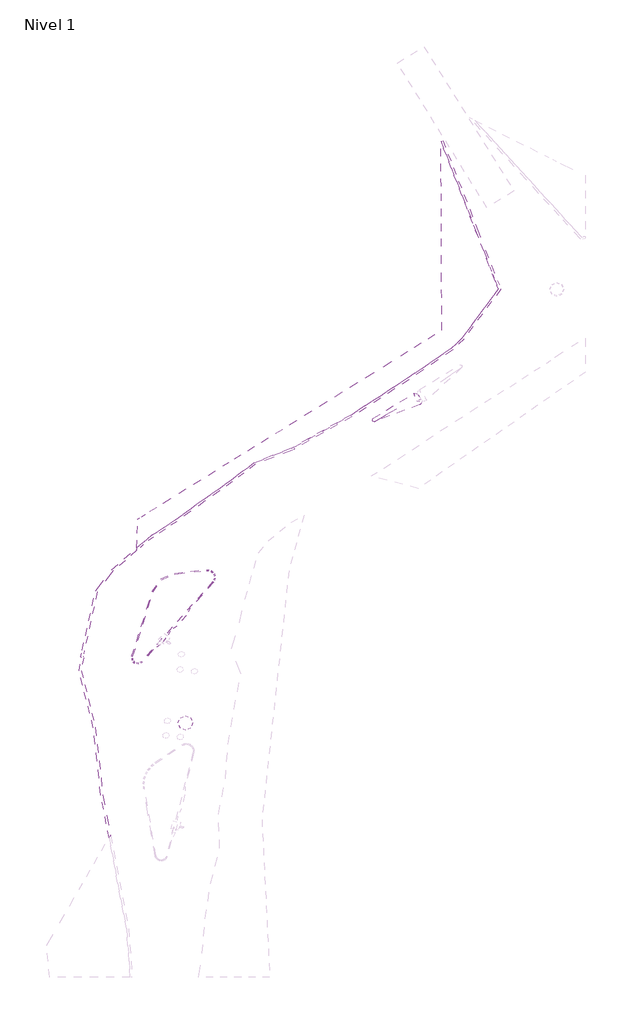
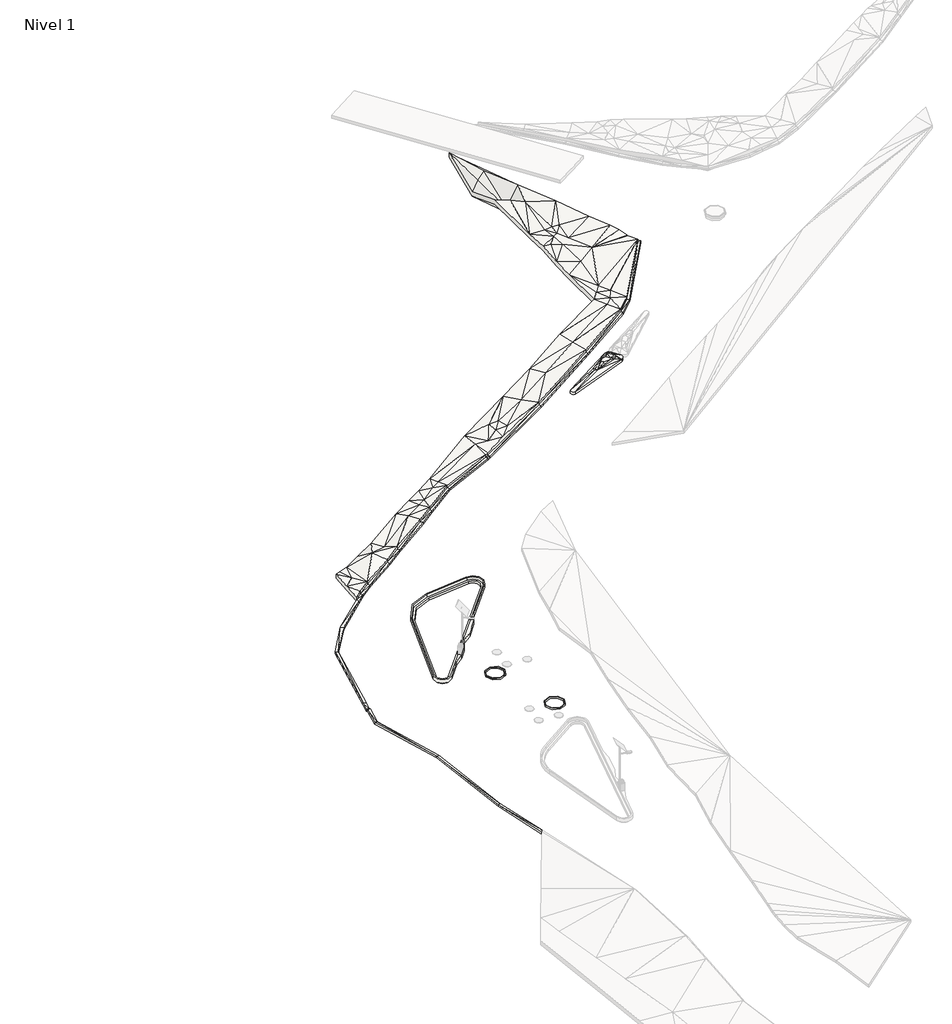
# One storey, part 37 of 45: 7 slabs.
"""IFC4 building model written with IfcOpenShell, lengths in millimetres."""

from ifc_helpers import new_model, si_unit, point, frame, frame_2d, origin, place, context, project, spatial, polyline, circle_curve, trimmed, segment, composite_curve, outline, extrude, faceted_brep, element, save
from ifc_brep_helpers import plane_surface, cylinder_surface, spline_surface, advanced_brep

model = new_model("IFC4")

# Units and contexts
model_context = context("Model", 3, world=origin())
ifc_project = project(units=[si_unit("LENGTHUNIT", "METRE", prefix="MILLI")], contexts=[model_context])

# Site, building, storey
site = spatial("IfcSite", under=ifc_project)
building = spatial("IfcBuilding", under=site)
storey = spatial("IfcBuildingStorey", under=building, Name="Nivel 1", Elevation=0.0)

# Slabs
placement = place(None, origin())
element("IfcSlab", 1, ObjectType="Lippia", at=placement, inside=storey, context=model_context, shape_type="AdvancedBrep", body=[
    advanced_brep(
    [(-180922.6574957, 914079.7671222, 6450.0), (-180922.6574957, 914079.7671222, 6750.0), (-180451.7015521, 913320.6565095, 6750.0), (-180451.7015521, 913320.6565095, 6450.0), (-180702.9387456, 912588.1798715, 6750.0), (-180702.9387456, 912588.1798715, 6450.0), (-187317.2940233, 910114.5313122, 6750.0), (-187317.2940233, 910114.5313122, 6450.0), (-187535.5852433, 910561.7988345, 6450.0), (-187535.5852433, 910561.7988345, 6750.0), (-181607.8032786, 914239.2945072, 6750.0), (-181607.8032786, 914239.2945072, 6450.0), (-181125.8948109, 913147.3846626, 7050.0), (-181230.1562892, 913636.9829941, 7050.0), (-181125.8948109, 913147.3846626, 6750.0), (-181230.1562892, 913636.9829941, 6750.0), (-182701.2194173, 912451.285877, 7250.0), (-182411.4930312, 912454.1583234, 7250.0), (-182121.7666451, 912457.0307699, 7250.0), (-181877.4144522, 912746.6831171, 7250.0), (-182194.2777469, 913065.1541282, 7250.0), (-182476.8327656, 913005.2811763, 7250.0), (-182710.1884735, 912955.8334789, 7250.0), (-182953.9622779, 912672.0178226, 7250.0), (-182701.2194173, 912451.285877, 6950.0), (-182953.9622779, 912672.0178226, 6950.0), (-182710.1884735, 912955.8334789, 6950.0), (-182476.8327656, 913005.2811763, 6950.0), (-182194.2777469, 913065.1541282, 6950.0), (-181877.4144522, 912746.6831171, 6950.0), (-182121.7666451, 912457.0307699, 6950.0), (-182411.4930312, 912454.1583234, 6950.0), (-181609.2774155, 913795.5701454, 7050.0), (-181378.1960698, 913815.5368548, 7050.0), (-181609.2774155, 913795.5701454, 6750.0), (-181378.1960698, 913815.5368548, 6750.0), (-181181.219523, 912788.1675525, 7050.0), (-181181.219523, 912788.1675525, 6750.0), (-181465.1873773, 912561.3195556, 7050.0), (-183820.4421612, 911815.8491873, 7050.0), (-183820.4421612, 911815.8491873, 6750.0), (-181465.1873773, 912561.3195556, 6750.0), (-184029.4570005, 912265.5192698, 7050.0), (-184029.4570005, 912265.5192698, 6750.0), (-184122.5831491, 911948.8087321, 7050.0), (-184122.5831491, 911948.8087321, 6750.0)],
    [
        (0, 1),
        (1, 2),
        (2, 3),
        (3, 0),
        (2, 4, circle_curve(frame((-180876.5787615, 913057.0606069, 6750.0), z_axis=(0.0, 0.0, -1.0), x_axis=(0.6003648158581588, -0.7997262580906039, 0.0)), 499.9999992)),
        (4, 5),
        (5, 3, circle_curve(frame((-180876.5787615, 913057.0606069, 6450.0), z_axis=(0.0, 0.0, 1.0), x_axis=(0.6003648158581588, -0.7997262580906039, 0.0)), 499.9999992)),
        (4, 6),
        (6, 7),
        (7, 5),
        (8, 9),
        (9, 10),
        (10, 11),
        (11, 8),
        (10, 1, circle_curve(frame((-181345.8160956, 913813.4274903, 6750.0), z_axis=(0.0, 0.0, -1.0), x_axis=(0.6003648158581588, -0.7997262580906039, 0.0)), 500.0000001)),
        (0, 11, circle_curve(frame((-181345.8160956, 913813.4274903, 6450.0), z_axis=(0.0, 0.0, 1.0), x_axis=(0.6003648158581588, -0.7997262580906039, 0.0)), 500.0000001)),
        (2, 12),
        (12, 4),
        (1, 13),
        (13, 2),
        (5, 14),
        (14, 3),
        (3, 15),
        (15, 0),
        (16, 17),
        (17, 18),
        (18, 19),
        (19, 20),
        (20, 21),
        (21, 22),
        (22, 23),
        (23, 16),
        (24, 25),
        (25, 26),
        (26, 27),
        (27, 28),
        (28, 29),
        (29, 30),
        (30, 31),
        (31, 24),
        (20, 32),
        (32, 22),
        (10, 32),
        (32, 33),
        (33, 10),
        (19, 32),
        (26, 34),
        (34, 28),
        (11, 35),
        (35, 34),
        (34, 11),
        (34, 29),
        (32, 12),
        (12, 13),
        (13, 33),
        (19, 12),
        (12, 36),
        (36, 4),
        (35, 15),
        (15, 14),
        (14, 34),
        (14, 29),
        (5, 37),
        (37, 14),
        (4, 38),
        (38, 39),
        (39, 4),
        (19, 38),
        (38, 36),
        (36, 19),
        (5, 40),
        (40, 41),
        (41, 5),
        (29, 37),
        (37, 41),
        (41, 29),
        (22, 42),
        (42, 23),
        (23, 39),
        (39, 16),
        (39, 18),
        (25, 43),
        (43, 26),
        (24, 40),
        (40, 25),
        (30, 40),
        (42, 39),
        (40, 43),
        (1, 33),
        (35, 0),
        (10, 42),
        (42, 32),
        (42, 44),
        (44, 39),
        (18, 38),
        (34, 43),
        (43, 11),
        (40, 45),
        (45, 43),
        (41, 30),
        (6, 9, circle_curve(frame((-187404.8673458, 910348.6959698, 6750.0), z_axis=(0.0, 0.0, -1.0), x_axis=(0.6003648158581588, -0.7997262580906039, 0.0)), 249.9999994)),
        (8, 7, circle_curve(frame((-187404.8673458, 910348.6959698, 6450.0), z_axis=(0.0, 0.0, 1.0), x_axis=(0.6003648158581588, -0.7997262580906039, 0.0)), 249.9999994)),
        (9, 42),
        (9, 44),
        (6, 44),
        (6, 39),
        (43, 8),
        (45, 8),
        (45, 7),
        (40, 7),
    ],
    [
        plane_surface(frame((-180922.6574957, 914079.7671222, 6450.0), z_axis=(0.8497485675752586, 0.5271881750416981, 0.0), x_axis=(0.0, 0.0, 1.0))),
        cylinder_surface(frame((-180876.5787615, 913057.0606069, 6750.0), z_axis=(0.0, 0.0, -1.0000000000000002), x_axis=(0.6003648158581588, -0.7997262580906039, 0.0)), 499.9999992),
        plane_surface(frame((-180702.9387456, 912588.1798715, 6450.0), z_axis=(0.3502871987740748, -0.9366423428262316, 0.0), x_axis=(0.0, 0.0, 1.0))),
        plane_surface(frame((-187535.5852433, 910561.7988345, 6450.0), z_axis=(-0.5271747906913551, 0.8497568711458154, 0.0), x_axis=(0.0, 0.0, 1.0))),
        cylinder_surface(frame((-181345.8160956, 913813.4274903, 6750.0), z_axis=(0.0, 0.0, -1.0000000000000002), x_axis=(0.6003648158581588, -0.7997262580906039, 0.0)), 500.0000001),
        spline_surface(2, 1, [[(-180702.9387456, 912588.1798715, 6750.0), (-181125.8948109, 913147.3846626, 7050.0)], [(-180480.56193111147, 912670.5323988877, 6750.0), (-181125.8948109, 913147.3846626, 7050.0)], [(-180403.62561064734, 912894.8406443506, 6750.0), (-181125.8948109, 913147.3846626, 7050.0)], [(-180326.68929020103, 913119.1488898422, 6750.0), (-181125.8948109, 913147.3846626, 7050.0)], [(-180451.7044784, 913320.654694, 6750.0), (-181125.8948109, 913147.3846626, 7050.0)]], [3, 2, 3], [2, 2], [0.0, 1.0, 2.0], [0.0, 1.0], weights=[[1.0, 1.0], [0.9035324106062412, 0.9035324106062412], [1.0, 1.0], [0.9035324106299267, 0.9035324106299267], [1.0, 1.0]]),
        plane_surface(frame((-180868.171779, 913679.1355419, 6850.0), z_axis=(0.44060370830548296, 0.27335269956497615, 0.8550711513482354), x_axis=(-0.527188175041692, 0.8497485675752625, 0.0))),
        spline_surface(1, 2, [[(-180702.9387456, 912588.1798715, 6450.0), (-180480.56193111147, 912670.5323988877, 6450.0), (-180403.62561064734, 912894.8406443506, 6450.0), (-180326.68929020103, 913119.1488898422, 6450.0), (-180451.7044784, 913320.654694, 6450.0)], [(-181125.8948109, 913147.3846626, 6750.0), (-181125.8948109, 913147.3846626, 6750.0), (-181125.8948109, 913147.3846626, 6750.0), (-181125.8948109, 913147.3846626, 6750.0), (-181125.8948109, 913147.3846626, 6750.0)]], [2, 2], [3, 2, 3], [0.0, 1.0], [0.0, 1.0, 2.0], weights=[[1.0, 0.9035324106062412, 1.0, 0.9035324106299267, 1.0], [1.0, 0.9035324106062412, 1.0, 0.9035324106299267, 1.0]]),
        plane_surface(frame((-180868.171779, 913679.1355419, 6550.0), z_axis=(-0.44060370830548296, -0.27335269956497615, -0.8550711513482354), x_axis=(-0.527188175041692, 0.8497485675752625, 0.0))),
        plane_surface(frame((-182426.4715022, 912724.6675323, 7250.0), z_axis=(0.0, 0.0, 1.0000000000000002), x_axis=(0.9999508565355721, 0.009913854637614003, 0.0))),
        plane_surface(frame((-182426.4715022, 912724.6675323, 6950.0), z_axis=(0.0, 0.0, -1.0000000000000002), x_axis=(0.9999508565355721, 0.009913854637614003, 0.0))),
        plane_surface(frame((-182171.2478786, 913272.1859175, 7183.3333333), z_axis=(-0.06621952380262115, 0.3125060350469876, 0.9476048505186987), x_axis=(0.9782783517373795, 0.2072956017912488, 0.0))),
        plane_surface(frame((-181531.7589213, 913950.1338358, 6950.0), z_axis=(-0.04834833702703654, 0.5595513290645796, 0.8273842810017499), x_axis=(-0.0027521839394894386, -0.8284244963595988, 0.560093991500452))),
        plane_surface(frame((-181893.6565382, 913202.4691302, 7183.3333333), z_axis=(0.1490616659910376, 0.14830916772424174, 0.9776425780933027), x_axis=(0.24355356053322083, 0.9527224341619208, -0.1816634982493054))),
        plane_surface(frame((-182171.2478786, 913272.1859175, 6883.3333333), z_axis=(0.06621952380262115, -0.3125060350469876, -0.9476048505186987), x_axis=(0.9782783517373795, 0.2072956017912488, 0.0))),
        plane_surface(frame((-181531.7589213, 913950.1338358, 6650.0), z_axis=(0.04834833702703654, -0.5595513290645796, -0.8273842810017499), x_axis=(-0.0027521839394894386, -0.8284244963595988, 0.560093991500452))),
        plane_surface(frame((-181893.6565382, 913202.4691302, 6883.3333333), z_axis=(-0.1490616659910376, -0.14830916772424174, -0.9776425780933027), x_axis=(0.24355356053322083, 0.9527224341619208, -0.1816634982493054))),
        plane_surface(frame((-181335.8811463, 913598.8686642, 7050.0), z_axis=(0.0, 0.0, 1.0), x_axis=(0.5978159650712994, -0.801633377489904, 0.0))),
        plane_surface(frame((-181537.5288928, 913229.8793084, 7116.6666667), z_axis=(0.18525958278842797, 0.13815684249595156, 0.9729293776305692), x_axis=(0.8590375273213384, 0.45802883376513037, -0.22861346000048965))),
        plane_surface(frame((-181003.3510265, 912841.2440289, 6950.0), z_axis=(0.5061540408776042, -0.0779551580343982, 0.8589127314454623), x_axis=(-0.5546032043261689, 0.7332600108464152, 0.3933764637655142))),
        plane_surface(frame((-180935.9175507, 913368.3413888, 6950.0), z_axis=(0.3873844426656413, 0.08249471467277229, 0.9182199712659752), x_axis=(-0.8724931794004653, 0.3545391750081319, 0.3362404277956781))),
        plane_surface(frame((-181335.8811463, 913598.8686642, 6750.0), z_axis=(0.0, 0.0, -1.0), x_axis=(0.5978159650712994, -0.801633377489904, 0.0))),
        plane_surface(frame((-181537.5288928, 913229.8793084, 6816.6666667), z_axis=(-0.18525958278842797, -0.13815684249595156, -0.9729293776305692), x_axis=(0.8590375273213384, 0.45802883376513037, -0.22861346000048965))),
        plane_surface(frame((-181003.3510265, 912841.2440289, 6650.0), z_axis=(-0.5061540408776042, 0.0779551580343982, -0.8589127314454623), x_axis=(-0.5546032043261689, 0.7332600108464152, 0.3933764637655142))),
        plane_surface(frame((-180935.9175507, 913368.3413888, 6650.0), z_axis=(-0.3873844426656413, -0.08249471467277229, -0.9182199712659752), x_axis=(-0.8724931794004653, 0.3545391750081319, 0.3362404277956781))),
        plane_surface(frame((-181996.189428, 912321.7828715, 6950.0), z_axis=(0.24937509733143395, -0.7878809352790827, 0.5630769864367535), x_axis=(-0.930024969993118, -0.032772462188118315, 0.366032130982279))),
        plane_surface(frame((-181507.9404508, 912698.7234084, 7116.6666667), z_axis=(0.2779501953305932, -0.34793748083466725, 0.8953676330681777), x_axis=(0.8340324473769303, -0.3750341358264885, -0.4046470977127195))),
        plane_surface(frame((-181996.189428, 912321.7828715, 6650.0), z_axis=(-0.24937509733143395, 0.7878809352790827, -0.5630769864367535), x_axis=(-0.930024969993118, -0.032772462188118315, 0.366032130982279))),
        plane_surface(frame((-181507.9404508, 912698.7234084, 6816.6666667), z_axis=(-0.2779501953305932, 0.34793748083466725, -0.8953676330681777), x_axis=(0.8340324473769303, -0.3750341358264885, -0.4046470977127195))),
        plane_surface(frame((-183231.202584, 912631.1235238, 7183.3333333), z_axis=(-0.2588275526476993, 0.22231112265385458, 0.9399925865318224), x_axis=(0.6515664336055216, 0.7585915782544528, 0.0))),
        plane_surface(frame((-183158.5412855, 912313.0509623, 7183.3333333), z_axis=(-0.10685633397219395, -0.12235281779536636, 0.9867175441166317), x_axis=(-0.7531937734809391, 0.6577987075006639, 0.0))),
        plane_surface(frame((-182881.1427412, 912241.3886114, 7183.3333333), z_axis=(0.003024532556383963, -0.3050663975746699, 0.9523262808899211), x_axis=(-0.8593050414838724, -0.4878688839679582, -0.15355389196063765))),
        plane_surface(frame((-183231.202584, 912631.1235238, 6883.3333333), z_axis=(0.2588275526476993, -0.22231112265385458, -0.9399925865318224), x_axis=(0.6515664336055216, 0.7585915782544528, 0.0))),
        plane_surface(frame((-183158.5412855, 912313.0509623, 6883.3333333), z_axis=(0.10685633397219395, 0.12235281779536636, -0.9867175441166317), x_axis=(-0.7531937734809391, 0.6577987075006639, 0.0))),
        plane_surface(frame((-182881.1427412, 912241.3886114, 6883.3333333), z_axis=(-0.003024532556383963, 0.3050663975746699, -0.9523262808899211), x_axis=(-0.8593050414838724, -0.4878688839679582, -0.15355389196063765))),
        plane_surface(frame((-183601.2871465, 912251.1287599, 7116.6666667), z_axis=(-0.15581988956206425, -0.07242792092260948, 0.9851265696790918), x_axis=(-0.9215754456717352, -0.3483225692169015, -0.17137702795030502))),
        plane_surface(frame((-183601.2871465, 912251.1287599, 6816.6666667), z_axis=(0.15581988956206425, 0.07242792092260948, -0.9851265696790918), x_axis=(-0.9215754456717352, -0.3483225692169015, -0.17137702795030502))),
        plane_surface(frame((-181177.0032849, 913844.095657, 6950.0), z_axis=(0.38506818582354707, 0.31926170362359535, 0.8659067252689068), x_axis=(-0.7516145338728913, -0.4359659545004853, 0.49498411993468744))),
        spline_surface(2, 1, [[(-180922.6574957, 914079.7671222, 6750.0), (-181378.1960698, 913815.5368548, 7050.0)], [(-181186.28032552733, 914498.6092854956, 6750.0), (-181378.1960698, 913815.5368548, 7050.0)], [(-181607.8032786, 914239.2945072, 6750.0), (-181378.1960698, 913815.5368548, 7050.0)]], [3, 3], [2, 2], [0.0, 1.0], [0.0, 1.0], weights=[[1.0, 1.0], [0.7107223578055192, 0.7107223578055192], [1.0, 1.0]]),
        plane_surface(frame((-181177.0032849, 913844.095657, 6650.0), z_axis=(-0.38506818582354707, -0.31926170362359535, -0.8659067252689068), x_axis=(-0.7516145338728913, -0.4359659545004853, 0.49498411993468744))),
        spline_surface(1, 2, [[(-180922.6574957, 914079.7671222, 6450.0), (-181186.28032552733, 914498.6092854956, 6450.0), (-181607.8032786, 914239.2945072, 6450.0)], [(-181378.1960698, 913815.5368548, 6750.0), (-181378.1960698, 913815.5368548, 6750.0), (-181378.1960698, 913815.5368548, 6750.0)]], [2, 2], [3, 3], [0.0, 1.0], [0.0, 1.0], weights=[[1.0, 0.7107223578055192, 1.0], [1.0, 0.7107223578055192, 1.0]]),
        plane_surface(frame((-181394.8429287, 912894.0784441, 7116.6666667), z_axis=(0.2782126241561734, -0.04284883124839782, 0.9595632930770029), x_axis=(0.959554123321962, 0.057177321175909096, -0.2756567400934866))),
        plane_surface(frame((-181394.8429287, 912894.0784441, 6816.6666667), z_axis=(-0.2782126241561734, 0.04284883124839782, -0.9595632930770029), x_axis=(0.959554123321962, 0.057177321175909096, -0.2756567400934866))),
        plane_surface(frame((-182415.5125648, 913433.4613075, 6950.0), z_axis=(-0.3342157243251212, 0.5286504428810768, 0.7802746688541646), x_axis=(-0.771595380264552, -0.6288908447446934, 0.09558699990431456))),
        plane_surface(frame((-183990.8274369, 912010.0590631, 7050.0), z_axis=(0.0, 0.0, 1.0), x_axis=(-0.4215085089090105, 0.9068244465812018, 0.0))),
        plane_surface(frame((-181821.4561582, 912588.3444809, 7183.3333333), z_axis=(0.3195305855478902, -0.26955762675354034, 0.9084266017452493), x_axis=(-0.6448062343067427, -0.7643460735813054, 0.0))),
        plane_surface(frame((-181116.4485486, 912645.8889932, 6950.0), z_axis=(0.34368880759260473, -0.4302289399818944, 0.8347341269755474), x_axis=(-0.7985248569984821, 0.3338941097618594, 0.5008720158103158))),
        plane_surface(frame((-182415.5125648, 913433.4613075, 6650.0), z_axis=(0.3342157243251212, -0.5286504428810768, -0.7802746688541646), x_axis=(-0.771595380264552, -0.6288908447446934, 0.09558699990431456))),
        plane_surface(frame((-183990.8274369, 912010.0590631, 6750.0), z_axis=(0.0, 0.0, -1.0), x_axis=(-0.4215085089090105, 0.9068244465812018, 0.0))),
        plane_surface(frame((-181821.4561582, 912588.3444809, 6883.3333333), z_axis=(-0.3195305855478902, 0.26955762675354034, -0.9084266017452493), x_axis=(-0.6448062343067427, -0.7643460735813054, 0.0))),
        plane_surface(frame((-181116.4485486, 912645.8889932, 6650.0), z_axis=(-0.34368880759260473, 0.4302289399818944, -0.8347341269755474), x_axis=(-0.7985248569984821, 0.3338941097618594, 0.5008720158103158))),
        plane_surface(frame((-182782.9742965, 913005.6409647, 7116.6666667), z_axis=(-0.4567101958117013, 0.7224078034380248, 0.5191750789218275), x_axis=(0.7869348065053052, 0.6002465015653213, -0.142960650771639))),
        plane_surface(frame((-182782.9742965, 913005.6409647, 6816.6666667), z_axis=(0.4567101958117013, -0.7224078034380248, -0.5191750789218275), x_axis=(0.7869348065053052, 0.6002465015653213, -0.142960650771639))),
        plane_surface(frame((-182469.1320612, 912278.0665043, 7116.6666667), z_axis=(0.2706006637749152, -0.8549414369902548, 0.44254990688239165), x_axis=(-0.9299456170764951, -0.3510170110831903, -0.10949067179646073))),
        plane_surface(frame((-182469.1320612, 912278.0665043, 6816.6666667), z_axis=(-0.2706006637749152, 0.8549414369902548, -0.44254990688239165), x_axis=(-0.9299456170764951, -0.3510170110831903, -0.10949067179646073))),
        cylinder_surface(frame((-187404.8673458, 910348.6959698, 6750.0), z_axis=(0.0, 0.0, -1.0000000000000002), x_axis=(0.6003648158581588, -0.7997262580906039, 0.0)), 249.9999994),
        plane_surface(frame((-184390.9485075, 912355.5375371, 6850.0), z_axis=(-0.3160043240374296, 0.5093696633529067, 0.8004272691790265), x_axis=(-0.8497568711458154, -0.5271747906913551, 0.0))),
        plane_surface(frame((-185229.2084643, 911592.0422788, 6950.0), z_axis=(-0.09929210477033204, 0.029196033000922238, 0.9946299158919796), x_axis=(-0.8967813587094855, -0.4357697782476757, -0.07673262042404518))),
        spline_surface(2, 1, [[(-187535.5852433, 910561.7988345, 6750.0), (-184122.5831491, 911948.8087321, 7050.0)], [(-187729.12000094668, 910443.0840689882, 6750.0), (-184122.5831491, 911948.8087321, 7050.0)], [(-187629.53720319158, 910239.0444543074, 6750.0), (-184122.5831491, 911948.8087321, 7050.0)], [(-187529.95440541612, 910035.004839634, 6750.0), (-184122.5831491, 911948.8087321, 7050.0)], [(-187317.2955463, 910114.5353847, 6750.0), (-184122.5831491, 911948.8087321, 7050.0)]], [3, 2, 3], [2, 2], [0.0, 1.0, 2.0], [0.0, 1.0], weights=[[1.0, 1.0], [0.7402773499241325, 0.7402773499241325], [1.0, 1.0], [0.7402773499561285, 0.7402773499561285], [1.0, 1.0]]),
        plane_surface(frame((-185086.7731112, 911293.0630772, 6950.0), z_axis=(-0.04053752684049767, -0.09211860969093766, 0.9949225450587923), x_axis=(-0.9152954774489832, 0.40278305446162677, 0.0))),
        plane_surface(frame((-183946.8916433, 911506.1867903, 6850.0), z_axis=(0.22110734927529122, -0.5912248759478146, 0.7756060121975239), x_axis=(-0.9664495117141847, -0.2394283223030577, 0.09300225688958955))),
        plane_surface(frame((-184390.9485075, 912355.5375371, 6550.0), z_axis=(0.3160043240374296, -0.5093696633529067, -0.8004272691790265), x_axis=(-0.8497568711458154, -0.5271747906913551, 0.0))),
        plane_surface(frame((-185229.2084643, 911592.0422788, 6650.0), z_axis=(0.09929210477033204, -0.029196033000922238, -0.9946299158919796), x_axis=(-0.8967813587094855, -0.4357697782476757, -0.07673262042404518))),
        spline_surface(1, 2, [[(-187535.5852433, 910561.7988345, 6450.0), (-187729.12000094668, 910443.0840689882, 6450.0), (-187629.53720319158, 910239.0444543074, 6450.0), (-187529.95440541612, 910035.004839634, 6450.0), (-187317.2955463, 910114.5353847, 6450.0)], [(-184122.5831491, 911948.8087321, 6750.0), (-184122.5831491, 911948.8087321, 6750.0), (-184122.5831491, 911948.8087321, 6750.0), (-184122.5831491, 911948.8087321, 6750.0), (-184122.5831491, 911948.8087321, 6750.0)]], [2, 2], [3, 2, 3], [0.0, 1.0], [0.0, 1.0, 2.0], weights=[[1.0, 0.7402773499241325, 1.0, 0.7402773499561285, 1.0], [1.0, 0.7402773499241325, 1.0, 0.7402773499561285, 1.0]]),
        plane_surface(frame((-185086.7731112, 911293.0630772, 6650.0), z_axis=(0.04053752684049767, 0.09211860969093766, -0.9949225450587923), x_axis=(-0.9152954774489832, 0.40278305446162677, 0.0))),
        plane_surface(frame((-183946.8916433, 911506.1867903, 6550.0), z_axis=(-0.22110734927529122, 0.5912248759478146, -0.7756060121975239), x_axis=(-0.9664495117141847, -0.2394283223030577, 0.09300225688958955))),
    ],
    [
        (0, [[1, 2, 3, 4]]),
        (1, [[-3, 5, 6, 7]]),
        (2, [[-6, 8, 9, 10]]),
        (3, [[11, 12, 13, 14]]),
        (4, [[-13, 15, -1, 16]]),
        (5, [[-5, 17, 18]]),
        (6, [[-2, 19, 20]]),
        (7, [[21, 22, -7]]),
        (8, [[23, 24, -4]]),
        (9, [[25, 26, 27, 28, 29, 30, 31, 32]]),
        (10, [[33, 34, 35, 36, 37, 38, 39, 40]]),
        (11, [[-29, 41, 42, -30]]),
        (12, [[43, 44, 45]]),
        (13, [[46, -41, -28]]),
        (14, [[-35, 47, 48, -36]]),
        (15, [[49, 50, 51]]),
        (16, [[-37, -48, 52]]),
        (17, [[53, 54, 55, -44]]),
        (18, [[56, -53, -46]]),
        (19, [[-18, 57, 58]]),
        (20, [[-20, -54, -17]]),
        (21, [[-50, 59, 60, 61]]),
        (22, [[-52, -61, 62]]),
        (23, [[63, 64, -21]]),
        (24, [[-22, -60, -23]]),
        (25, [[65, 66, 67]]),
        (26, [[68, 69, 70]]),
        (27, [[71, 72, 73]]),
        (28, [[74, 75, 76]]),
        (29, [[-31, 77, 78]]),
        (30, [[-32, 79, 80]]),
        (31, [[-80, 81, -26, -25]]),
        (32, [[82, 83, -34]]),
        (33, [[84, 85, -33]]),
        (34, [[-40, -39, 86, -84]]),
        (35, [[-78, 87, -79]]),
        (36, [[-85, 88, -82]]),
        (37, [[89, -55, -19]]),
        (38, [[-45, -89, -15]]),
        (39, [[-24, -59, 90]]),
        (40, [[-16, -90, -49]]),
        (41, [[-70, -57, -56]]),
        (42, [[-62, -64, -74]]),
        (43, [[91, 92, -43]]),
        (44, [[-87, 93, 94]]),
        (45, [[-27, 95, -68]]),
        (46, [[-58, -69, -65]]),
        (47, [[-51, 96, 97]]),
        (48, [[98, 99, -88]]),
        (49, [[-76, 100, -38]]),
        (50, [[-73, -75, -63]]),
        (51, [[-42, -92, -77]]),
        (52, [[-83, -96, -47]]),
        (53, [[-81, -66, -95]]),
        (54, [[-100, -72, -86]]),
        (55, [[-9, 101, -11, 102]]),
        (56, [[-12, 103, -91]]),
        (57, [[-103, 104, -93]]),
        (58, [[-104, -101, 105]]),
        (59, [[-94, -105, 106]]),
        (60, [[-67, -106, -8]]),
        (61, [[-97, 107, -14]]),
        (62, [[-99, 108, -107]]),
        (63, [[109, -102, -108]]),
        (64, [[110, -109, -98]]),
        (65, [[-10, -110, -71]]),
    ],
),
])
element("IfcSlab", 2, ObjectType="Bordillo", at=placement, inside=storey, context=model_context, shape_type="SweptSolid", body=[
    extrude(outline(composite_curve([segment(trimmed(circle_curve(frame_2d((-216294.3933242, 883972.5545501)), 3899.9999999), [point((-220014.1913918, 885144.349044))], [point((-216722.2772866, 887849.0110911))], False, "CARTESIAN"), True, "CONTINUOUS"), segment(polyline([(-216722.2772866, 887849.0110911), (-212018.5790021, 888368.2876552)]), True, "CONTINUOUS"), segment(trimmed(circle_curve(frame_2d((-211892.3885206, 887225.232119)), 1149.9999985), [point((-212018.5790021, 888368.2876552))], [point((-211033.9280342, 886460.0226119))], False, "CARTESIAN"), True, "CONTINUOUS"), segment(polyline([(-211033.9280342, 886460.0226119), (-214422.3186461, 882658.7114343), (-215034.1762078, 881596.5768663), (-216431.5151458, 880028.9535807), (-217416.6164563, 879299.5186174), (-218028.4742785, 878237.3835077), (-218880.1856895, 877281.8796621), (-219865.4218832, 876552.2935937), (-221491.3422153, 874728.2331082)]), True, "CONTINUOUS"), segment(trimmed(circle_curve(frame_2d((-222163.1808723, 875327.092708)), 900.0000007), [point((-221491.3422153, 874728.2331082))], [point((-223021.5958117, 875597.5068222))], False, "CARTESIAN"), True, "CONTINUOUS"), segment(polyline([(-223021.5958117, 875597.5068222), (-220014.1913918, 885144.349044)]), True, "CONTINUOUS")], self_intersect=False), holes=[composite_curve([segment(polyline([(-212002.1193734, 888219.1934564), (-216705.8840246, 887699.9095656)]), True, "CONTINUOUS"), segment(trimmed(circle_curve(frame_2d((-216294.3933234, 883972.5545501)), 3750.0000011), [point((-216705.8840246, 887699.9095656))], [point((-219871.1222358, 885099.2800252))], True, "CARTESIAN"), True, "CONTINUOUS"), segment(polyline([(-219871.1222358, 885099.2800252), (-222878.5266565, 875552.4377991)]), True, "CONTINUOUS"), segment(trimmed(circle_curve(frame_2d((-222163.1808744, 875327.0927041)), 749.9999999), [point((-222878.5266565, 875552.4377991))], [point((-221603.3153391, 874828.0430249))], True, "CARTESIAN"), True, "CONTINUOUS"), segment(polyline([(-221603.3153391, 874828.0430249), (-211145.9011395, 886559.832547)]), True, "CONTINUOUS"), segment(trimmed(circle_curve(frame_2d((-211892.3885198, 887225.2321193)), 999.9999999), [point((-211145.9011395, 886559.832547))], [point((-212002.1193734, 888219.1934564))], True, "CARTESIAN"), True, "CONTINUOUS")], self_intersect=False)]), frame((0.0, 0.0, 6350.0), z_axis=(0.0, 0.0, 1.0), x_axis=(1.0, 0.0, 0.0)), (0.0, 0.0, 1.0), 400.0),
])
element("IfcSlab", 3, ObjectType="Alcorque", at=placement, inside=storey, context=model_context, shape_type="SweptSolid", body=[
    extrude(outline(composite_curve([segment(trimmed(circle_curve(frame_2d((-215142.6431685, 865812.0114343)), 1050.0), [point((-214092.6431685, 865812.0114343))], [point((-216192.6431685, 865812.0114343))], False, "CARTESIAN"), True, "CONTINUOUS"), segment(trimmed(circle_curve(frame_2d((-215142.6431685, 865812.0114343)), 1050.0), [point((-216192.6431685, 865812.0114343))], [point((-214092.6431685, 865812.0114343))], False, "CARTESIAN"), True, "CONTINUOUS")], self_intersect=False), holes=[composite_curve([segment(trimmed(circle_curve(frame_2d((-215142.6431685, 865812.0114343)), 950.0), [point((-216092.6431685, 865812.0114343))], [point((-214192.6431685, 865812.0114343))], True, "CARTESIAN"), True, "CONTINUOUS"), segment(trimmed(circle_curve(frame_2d((-215142.6431685, 865812.0114343)), 950.0), [point((-214192.6431685, 865812.0114343))], [point((-216092.6431685, 865812.0114343))], True, "CARTESIAN"), True, "CONTINUOUS")], self_intersect=False)]), frame((0.0, 0.0, 6650.0), z_axis=(0.0, 0.0, 1.0), x_axis=(1.0, 0.0, 0.0)), (0.0, 0.0, 1.0), 150.0),
    extrude(outline(composite_curve([segment(trimmed(circle_curve(frame_2d((-217605.7679855, 873001.9199667)), 1050.0), [point((-218655.7679855, 873001.9199667))], [point((-216555.7679855, 873001.9199667))], False, "CARTESIAN"), True, "CONTINUOUS"), segment(trimmed(circle_curve(frame_2d((-217605.7679855, 873001.9199667)), 1050.0), [point((-216555.7679855, 873001.9199667))], [point((-218655.7679855, 873001.9199667))], False, "CARTESIAN"), True, "CONTINUOUS")], self_intersect=False), holes=[composite_curve([segment(trimmed(circle_curve(frame_2d((-217605.7679855, 873001.9199667)), 950.0), [point((-218555.7679855, 873001.9199667))], [point((-216655.7679855, 873001.9199667))], True, "CARTESIAN"), True, "CONTINUOUS"), segment(trimmed(circle_curve(frame_2d((-217605.7679855, 873001.9199667)), 950.0), [point((-216655.7679855, 873001.9199667))], [point((-218555.7679855, 873001.9199667))], True, "CARTESIAN"), True, "CONTINUOUS")], self_intersect=False)]), frame((0.0, 0.0, 6650.0), z_axis=(0.0, 0.0, 1.0), x_axis=(1.0, 0.0, 0.0)), (0.0, 0.0, 1.0), 150.0),
])
element("IfcSlab", 4, ObjectType="Tierra de Chacra (50cm)", at=placement, inside=storey, context=model_context, shape_type="Brep", body=[
    faceted_brep([(-222294.0526265, 891580.390538, 5540.1), (-222294.0526265, 891580.390538, 6040.1), (-222227.5511932, 893684.474359, 6030.05), (-222161.0497599, 895788.55818, 6140.0), (-222161.0497599, 895788.55818, 5640.0), (-222227.5511932, 893684.474359, 5530.05), (-221586.0443249, 896145.3280158, 6031.0745331), (-220375.6877998, 896896.3099587, 5675.4952138), (-218432.7263464, 898101.8464571, 5540.0), (-216099.7584147, 899549.3677069, 5400.0), (-211764.7268676, 902239.0961843, 5700.0), (-209587.3206892, 903590.0970574, 5660.0), (-207899.0755548, 904637.5913987, 5620.0), (-205961.7818097, 905839.6112915, 5600.0), (-199861.7478594, 909624.4591874, 6220.0), (-193170.9138977, 913775.8768758, 6020.0), (-188650.2525407, 916580.7818591, 6005.0), (-183434.6764219, 919816.8560285, 6240.0), (-177438.757222, 923537.1045308, 6000.0), (-177438.757222, 923537.1045308, 5500.0), (-183434.6764219, 919816.8560285, 5740.0), (-188650.2525407, 916580.7818591, 5505.0), (-193170.9138977, 913775.8768758, 5520.0), (-199861.7478594, 909624.4591874, 5720.0), (-205961.7818097, 905839.6112915, 5100.0), (-207899.0755548, 904637.5913987, 5120.0), (-209587.3206892, 903590.0970574, 5160.0), (-211764.7268676, 902239.0961843, 5200.0), (-216099.7584147, 899549.3677069, 4900.0), (-218432.7263464, 898101.8464571, 5040.0), (-220375.6877998, 896896.3099587, 5175.4952138), (-221586.0443249, 896145.3280158, 5531.0745331), (-177459.4818551, 928290.5790176, 6000.0), (-177469.9034998, 930680.9239608, 6080.0), (-177481.1943614, 933270.635537, 6350.0), (-177492.485223, 935860.3471131, 6220.0), (-177521.5724634, 942531.8985102, 6229.3019397), (-177540.6530023, 946908.2777692, 4500.0), (-177559.7335412, 951284.6570282, 6455.5081277), (-177559.7335412, 951284.6570282, 5955.5081277), (-177540.6530023, 946908.2777692, 4000.0), (-177521.5724634, 942531.8985102, 5729.3019397), (-177492.485223, 935860.3471131, 5720.0), (-177481.1943614, 933270.635537, 5850.0), (-177469.9034998, 930680.9239608, 5580.0), (-177459.4818551, 928290.5790176, 5500.0), (-176015.9486076, 947327.1812684, 6185.1581262), (-174472.163674, 943369.7055087, 6434.8081248), (-172765.6786452, 938995.149838, 6603.6137231), (-171284.8450145, 935199.0490532, 6557.3857841), (-170333.3133887, 932759.8081579, 6613.5652272), (-169925.2467591, 931713.7338247, 6584.4889475), (-169568.3894902, 930798.9341265, 6406.1829718), (-169532.3082366, 930706.4402281, 6387.899465), (-169098.9693287, 929595.5806865, 6493.5), (-169098.9693287, 929595.5806865, 5993.5), (-169532.3082366, 930706.4402281, 5887.899465), (-169568.3894902, 930798.9341265, 5906.1829718), (-169925.2467591, 931713.7338247, 6084.4889475), (-170333.3133887, 932759.8081579, 6113.5652272), (-171284.8450145, 935199.0490532, 6057.3857841), (-172765.6786452, 938995.149838, 6103.6137231), (-174472.163674, 943369.7055087, 5934.8081248), (-176015.9486076, 947327.1812684, 5685.1581262), (-174442.5131631, 922436.3161502, 5935.4), (-174442.5131631, 922436.3161502, 5435.4), (-176032.9220085, 920877.750929, 5949.0), (-176032.9220085, 920877.750929, 5449.0), (-182449.4162337, 916522.574003, 6055.4), (-182449.4162337, 916522.574003, 5555.4), (-186632.1753513, 913792.4773669, 6093.95), (-190814.9344688, 911062.3807309, 6132.5), (-190814.9344688, 911062.3807309, 5632.5), (-186632.1753513, 913792.4773669, 5593.95), (-196753.1208812, 907736.576821, 6151.7596551), (-199214.6631411, 906357.9392532, 5990.0), (-199214.6631411, 906357.9392532, 5490.0), (-196753.1208812, 907736.576821, 5651.7596551), (-199520.737952, 906186.5157356, 5983.3), (-199520.737952, 906186.5157356, 5483.3), (-205031.6792452, 904070.142268, 5615.2), (-205031.6792452, 904070.142268, 5115.2), (-208462.9761349, 901519.11009, 5733.6), (-208462.9761349, 901519.11009, 5233.6), (-210267.979929, 900194.4139067, 5791.9), (-210267.979929, 900194.4139067, 5291.9), (-214552.3835499, 897185.7157207, 5891.1), (-214552.3835499, 897185.7157207, 5391.1), (-216586.6212288, 895659.7518602, 5969.6), (-216586.6212288, 895659.7518602, 5469.6), (-220092.2045379, 893385.4558516, 5985.9), (-220092.2045379, 893385.4558516, 5485.9), (-221527.9962356, 892248.7131416, 6048.7), (-221527.9962356, 892248.7131416, 5548.7), (-217509.6737876, 896880.7991586, 6400.0), (-217509.6737876, 896880.7991586, 5900.0), (-211016.3533983, 901216.7550455, 5800.0), (-211016.3533983, 901216.7550455, 5300.0), (-208181.0258448, 903078.3507444, 5600.0), (-208181.0258448, 903078.3507444, 5100.0), (-205496.7305274, 904954.8767797, 5600.0), (-205496.7305274, 904954.8767797, 5100.0), (-182942.0463278, 918169.7150157, 6120.0), (-182942.0463278, 918169.7150157, 5620.0), (-175940.6351925, 922986.7103405, 5980.0), (-175940.6351925, 922986.7103405, 5480.0), (-175307.7739433, 924115.3074071, 6002.4543099), (-175307.7739433, 924115.3074071, 5502.4543099), (-173501.1058682, 930693.6820944, 6436.79244), (-173501.1058682, 930693.6820944, 5936.79244), (-199691.2429057, 907905.4874615, 6200.0), (-199691.2429057, 907905.4874615, 5700.0), (-176746.3602904, 947142.2949836, 5540.1), (-176746.3602904, 947142.2949836, 5040.1), (-187641.213946, 915186.629613, 6000.0), (-187641.213946, 915186.629613, 5500.0), (-174388.6651187, 935529.6980831, 6420.0), (-174720.8405195, 933194.3523463, 6418.39622), (-174720.8405195, 933194.3523463, 5918.39622), (-174388.6651187, 935529.6980831, 5920.0), (-176735.8396152, 922207.4277299, 5960.0), (-176735.8396152, 922207.4277299, 5460.0), (-175996.8680687, 942950.8020094, 4500.0), (-175143.6255543, 940763.5241741, 6231.8068616), (-175143.6255543, 940763.5241741, 5731.8068616), (-175996.8680687, 942950.8020094, 4000.0), (-175950.9975091, 925363.4475839, 6000.0), (-175480.2938617, 929492.130556, 6168.39622), (-175480.2938617, 929492.130556, 5668.39622), (-175950.9975091, 925363.4475839, 5500.0), (-191992.9241832, 912419.1288034, 6020.0), (-191992.9241832, 912419.1288034, 5520.0), (-198316.1247261, 907826.4328509, 6177.4222531), (-195506.1428751, 909039.255665, 6252.2584445), (-198316.1247261, 907826.4328509, 5677.4222531), (-195506.1428751, 909039.255665, 5752.2584445), (-206465.3774, 904353.8668334, 5618.7328924), (-206465.3774, 904353.8668334, 5118.7328924), (-209025.148412, 902554.6035737, 5600.0), (-209025.148412, 902554.6035737, 5100.0), (-215326.0709823, 898367.5417138, 5400.0), (-215326.0709823, 898367.5417138, 4900.0), (-221126.6271489, 894587.0070158, 6100.0), (-221126.6271489, 894587.0070158, 5600.0), (-176694.8773655, 924450.2760573, 6010.0), (-176694.8773655, 924450.2760573, 5510.0), (-176332.5990089, 941647.7113421, 6264.5941338), (-175164.6201448, 935612.3603406, 6400.0), (-176332.5990089, 941647.7113421, 5764.5941338), (-175164.6201448, 935612.3603406, 5900.0), (-175940.5751708, 935695.0225981, 6280.0), (-175940.5751708, 935695.0225981, 5780.0), (-175710.4345162, 932593.5765771, 6404.19811), (-175710.4345162, 932593.5765771, 5904.19811), (-175825.5048435, 934144.2995876, 6402.099055), (-175825.5048435, 934144.2995876, 5902.099055), (-176705.2393353, 933187.9732795, 6390.0), (-176705.2393353, 933187.9732795, 5890.0), (-175330.7078452, 934444.6874722, 6409.19811), (-175330.7078452, 934444.6874722, 5909.19811), (-195842.0835445, 910162.3081324, 6290.0), (-195842.0835445, 910162.3081324, 5790.0), (-196985.4689336, 910009.3180872, 6370.0886415), (-196985.4689336, 910009.3180872, 5870.0886415), (-196869.2949074, 908872.9474541, 6340.9241483), (-196869.2949074, 908872.9474541, 5840.9241483)], [[[0, 1, 2, 3, 4, 5]], [[4, 3, 6, 7, 8, 9, 10, 11, 12, 13, 14, 15, 16, 17, 18, 19, 20, 21, 22, 23, 24, 25, 26, 27, 28, 29, 30, 31]], [[19, 18, 32, 33, 34, 35, 36, 37, 38, 39, 40, 41, 42, 43, 44, 45]], [[39, 38, 46, 47, 48, 49, 50, 51, 52, 53, 54, 55, 56, 57, 58, 59, 60, 61, 62, 63]], [[55, 54, 64, 65]], [[65, 64, 66, 67]], [[67, 66, 68, 69]], [[69, 68, 70, 71, 72, 73]], [[72, 71, 74, 75, 76, 77]], [[76, 75, 78, 79]], [[79, 78, 80, 81]], [[81, 80, 82, 83]], [[83, 82, 84, 85]], [[85, 84, 86, 87]], [[87, 86, 88, 89]], [[89, 88, 90, 91]], [[91, 90, 92, 93]], [[93, 92, 1, 0]], [[92, 90, 2]], [[93, 5, 91]], [[90, 88, 94]], [[88, 86, 94]], [[91, 95, 89]], [[89, 95, 87]], [[86, 84, 96]], [[87, 97, 85]], [[84, 82, 96]], [[85, 97, 83]], [[82, 80, 98]], [[83, 99, 81]], [[80, 78, 100]], [[81, 101, 79]], [[68, 66, 102]], [[69, 103, 67]], [[66, 64, 104]], [[67, 105, 65]], [[64, 54, 106]], [[65, 107, 55]], [[54, 53, 108]], [[55, 109, 56]], [[78, 75, 110]], [[79, 111, 76]], [[38, 37, 112]], [[39, 113, 40]], [[71, 70, 68, 114]], [[72, 115, 69, 73]], [[92, 2, 1]], [[93, 0, 5]], [[49, 116, 117]], [[60, 118, 119]], [[66, 120, 102]], [[67, 103, 121]], [[47, 122, 123]], [[62, 124, 125]], [[32, 126, 127]], [[54, 108, 126]], [[45, 128, 129]], [[55, 129, 109]], [[18, 17, 120]], [[16, 102, 17]], [[68, 102, 114]], [[17, 102, 120]], [[19, 121, 20]], [[21, 20, 103]], [[69, 115, 103]], [[20, 121, 103]], [[71, 114, 130]], [[16, 15, 130]], [[16, 114, 102]], [[72, 131, 115]], [[21, 131, 22]], [[21, 103, 115]], [[16, 130, 114]], [[21, 115, 131]], [[78, 110, 100]], [[14, 110, 132]], [[71, 130, 133]], [[79, 101, 111]], [[23, 134, 111]], [[72, 135, 131]], [[80, 100, 136]], [[14, 13, 110]], [[13, 100, 110]], [[81, 137, 101]], [[23, 111, 24]], [[24, 111, 101]], [[82, 98, 138]], [[83, 139, 99]], [[86, 96, 140]], [[11, 10, 138]], [[87, 141, 97]], [[26, 139, 27]], [[10, 9, 140]], [[10, 140, 96]], [[27, 141, 28]], [[27, 97, 141]], [[90, 94, 7]], [[86, 140, 94]], [[91, 30, 95]], [[87, 95, 141]], [[90, 142, 2]], [[3, 142, 6]], [[9, 8, 94]], [[91, 5, 143]], [[4, 31, 143]], [[28, 95, 29]], [[36, 122, 37]], [[41, 40, 125]], [[38, 112, 46]], [[37, 122, 112]], [[39, 63, 113]], [[40, 113, 125]], [[46, 112, 122]], [[47, 46, 122]], [[63, 125, 113]], [[62, 125, 63]], [[18, 104, 144]], [[18, 120, 104]], [[19, 145, 105]], [[19, 105, 121]], [[66, 104, 120]], [[67, 121, 105]], [[12, 11, 98]], [[25, 99, 26]], [[9, 94, 140]], [[28, 141, 95]], [[3, 2, 142]], [[4, 143, 5]], [[10, 96, 138]], [[82, 138, 96]], [[27, 139, 97]], [[83, 97, 139]], [[12, 136, 13]], [[80, 136, 98]], [[13, 136, 100]], [[25, 24, 137]], [[81, 99, 137]], [[24, 101, 137]], [[49, 48, 116]], [[60, 119, 61]], [[53, 52, 108]], [[56, 109, 57]], [[108, 52, 51]], [[109, 58, 57]], [[108, 51, 50]], [[109, 59, 58]], [[35, 123, 146]], [[47, 123, 48]], [[116, 48, 147]], [[42, 148, 124]], [[62, 61, 124]], [[119, 149, 61]], [[35, 150, 123]], [[48, 123, 147]], [[42, 124, 151]], [[61, 149, 124]], [[32, 127, 33]], [[45, 44, 128]], [[33, 127, 152]], [[44, 153, 128]], [[108, 127, 126]], [[109, 129, 128]], [[36, 146, 122]], [[41, 125, 148]], [[18, 144, 32]], [[19, 45, 145]], [[35, 146, 36]], [[122, 146, 123]], [[42, 41, 148]], [[125, 124, 148]], [[35, 34, 154]], [[42, 155, 43]], [[33, 156, 34]], [[44, 43, 157]], [[32, 144, 126]], [[45, 129, 145]], [[126, 144, 106]], [[104, 106, 144]], [[64, 106, 104]], [[129, 107, 145]], [[105, 145, 107]], [[65, 105, 107]], [[54, 126, 106]], [[55, 107, 129]], [[108, 117, 158, 154, 152]], [[49, 117, 50]], [[108, 50, 117]], [[109, 153, 155, 159, 118]], [[60, 59, 118]], [[109, 118, 59]], [[33, 152, 156]], [[44, 157, 153]], [[108, 152, 127]], [[109, 128, 153]], [[116, 147, 158]], [[123, 150, 147]], [[119, 159, 149]], [[124, 149, 151]], [[150, 158, 147]], [[116, 158, 117]], [[151, 149, 159]], [[119, 118, 159]], [[156, 152, 154]], [[150, 154, 158]], [[156, 154, 34]], [[35, 154, 150]], [[157, 155, 153]], [[151, 159, 155]], [[157, 43, 155]], [[42, 151, 155]], [[15, 160, 130]], [[22, 131, 161]], [[14, 162, 15]], [[23, 22, 163]], [[15, 162, 160]], [[22, 161, 163]], [[75, 74, 132, 110]], [[160, 162, 164]], [[76, 111, 134, 77]], [[161, 165, 163]], [[14, 132, 162]], [[162, 132, 164]], [[23, 163, 134]], [[163, 165, 134]], [[160, 164, 133]], [[74, 164, 132]], [[161, 135, 165]], [[77, 134, 165]], [[74, 133, 164]], [[130, 160, 133]], [[71, 133, 74]], [[77, 165, 135]], [[131, 135, 161]], [[72, 77, 135]], [[12, 98, 136]], [[25, 137, 99]], [[11, 138, 98]], [[26, 99, 139]], [[90, 7, 142]], [[8, 7, 94]], [[91, 143, 30]], [[29, 95, 30]], [[142, 7, 6]], [[143, 31, 30]]]),
])
element("IfcSlab", 5, ObjectType="Tierra de Chacra (25cm)", at=placement, inside=storey, context=model_context, shape_type="SweptSolid", body=[
    extrude(outline(composite_curve([segment(trimmed(circle_curve(frame_2d((-222163.1808744, 875327.0927041)), 749.9999999), [point((-221603.3153391, 874828.0430249))], [point((-222878.5266565, 875552.4377991))], False, "CARTESIAN"), True, "CONTINUOUS"), segment(polyline([(-222878.5266565, 875552.4377991), (-219871.1222358, 885099.2800252)]), True, "CONTINUOUS"), segment(trimmed(circle_curve(frame_2d((-216294.3933234, 883972.5545501)), 3750.0000011), [point((-219871.1222358, 885099.2800252))], [point((-216705.8840246, 887699.9095656))], False, "CARTESIAN"), True, "CONTINUOUS"), segment(polyline([(-216705.8840246, 887699.9095656), (-212002.1193734, 888219.1934564)]), True, "CONTINUOUS"), segment(trimmed(circle_curve(frame_2d((-211892.3885198, 887225.2321193)), 999.9999999), [point((-212002.1193734, 888219.1934564))], [point((-211145.9011395, 886559.832547))], False, "CARTESIAN"), True, "CONTINUOUS"), segment(polyline([(-211145.9011395, 886559.832547), (-221603.3153391, 874828.0430249)]), True, "CONTINUOUS")], self_intersect=False), holes=[composite_curve([segment(polyline([(-211974.68666, 887970.7031221), (-216678.4513112, 887451.4192313)]), True, "CONTINUOUS"), segment(trimmed(circle_curve(frame_2d((-216294.3933234, 883972.5545501)), 3500.0000011), [point((-216678.4513112, 887451.4192313))], [point((-219632.6736417, 885024.1649935))], True, "CARTESIAN"), True, "CONTINUOUS"), segment(polyline([(-219632.6736417, 885024.1649935), (-222640.0780624, 875477.3227674)]), True, "CONTINUOUS"), segment(trimmed(circle_curve(frame_2d((-222163.1808744, 875327.0927041)), 499.9999999), [point((-222640.0780624, 875477.3227674))], [point((-221789.9371842, 874994.392918))], True, "CARTESIAN"), True, "CONTINUOUS"), segment(polyline([(-221789.9371842, 874994.392918), (-211332.5229846, 886726.1824401)]), True, "CONTINUOUS"), segment(trimmed(circle_curve(frame_2d((-211892.3885198, 887225.2321193)), 749.9999999), [point((-211332.5229846, 886726.1824401))], [point((-211974.68666, 887970.7031221))], True, "CARTESIAN"), True, "CONTINUOUS")], self_intersect=False)]), frame((0.0, 0.0, 6200.0), z_axis=(0.0, 0.0, 1.0), x_axis=(1.0, 0.0, 0.0)), (0.0, 0.0, 1.0), 250.0),
])
element("IfcSlab", 6, ObjectType="Tierra de Chacra (20cm)", at=placement, inside=storey, context=model_context, shape_type="Brep", body=[
    faceted_brep([(-221527.9962356, 892248.7131416, 5548.7), (-221527.9962356, 892248.7131416, 5748.7), (-220092.2045379, 893385.4558516, 5685.9), (-220092.2045379, 893385.4558516, 5485.9), (-216586.6212288, 895659.7518602, 5669.6), (-216586.6212288, 895659.7518602, 5469.6), (-214552.3835499, 897185.7157207, 5591.1), (-214552.3835499, 897185.7157207, 5391.1), (-210267.979929, 900194.4139067, 5491.9), (-210267.979929, 900194.4139067, 5291.9), (-208462.9761349, 901519.11009, 5433.6), (-208462.9761349, 901519.11009, 5233.6), (-205031.6792452, 904070.142268, 5315.2), (-205031.6792452, 904070.142268, 5115.2), (-199520.737952, 906186.5157356, 5683.3), (-199520.737952, 906186.5157356, 5483.3), (-199214.6631411, 906357.9392532, 5690.0), (-199214.6631411, 906357.9392532, 5490.0), (-190814.9344688, 911062.3807309, 5832.5), (-190814.9344688, 911062.3807309, 5632.5), (-182449.4162337, 916522.574003, 5755.4), (-182449.4162337, 916522.574003, 5555.4), (-176032.9220085, 920877.750929, 5649.0), (-176032.9220085, 920877.750929, 5449.0), (-174442.5131631, 922436.3161502, 5635.4), (-174442.5131631, 922436.3161502, 5435.4), (-169098.9693287, 929595.5806865, 6193.5), (-169098.9693287, 929595.5806865, 5993.5), (-169532.307109, 930706.4373375, 5987.9), (-171284.8450713, 935199.0491989, 5637.3857727), (-174472.163674, 943369.7055087, 6134.8209909), (-177559.733534, 951284.6570097, 6155.5081277), (-177559.733534, 951284.6570097, 5955.5081277), (-174472.1640995, 943369.7065995, 5934.8081277), (-171284.8467453, 935199.0534903, 5437.3370272), (-169532.3082366, 930706.4402281, 5787.9426819), (-177280.2460067, 951393.6832537, 6155.5199417), (-177280.2460067, 951393.6832537, 5955.5199417), (-174192.6765935, 943478.732899, 6134.8199419), (-171005.3574797, 935308.0752789, 5637.3810819), (-169252.8191983, 930815.4625997, 5987.9030736), (-168758.9885884, 929549.5332429, 6193.4881458), (-168758.9885884, 929549.5332429, 5993.4881458), (-169252.8195741, 930815.4635632, 5787.9173009), (-171005.3575365, 935308.0754246, 5437.3458636), (-174192.6761392, 943478.7317343, 5934.8653158), (-174215.9703996, 922238.2848343, 5635.4289298), (-174215.9703996, 922238.2848343, 5435.4289298), (-175842.1704706, 920644.6450097, 5649.0226426), (-175842.1704706, 920644.6450097, 5449.0226426), (-182283.1758266, 916272.8312245, 5755.4394357), (-182283.1758266, 916272.8312245, 5555.4394357), (-190659.4719703, 910805.6031862, 5832.467821), (-190659.4719703, 910805.6031862, 5632.467821), (-199068.0680536, 906096.195332, 5690.0), (-199068.0680536, 906096.195332, 5490.0), (-199393.0049129, 905914.2077347, 5683.2725887), (-199393.0049129, 905914.2077347, 5483.2725887), (-204885.7125779, 903804.8365494, 5315.2078032), (-204885.7125779, 903804.8365494, 5115.2078032), (-208284.7297942, 901277.8030192, 5433.5822619), (-208284.7297942, 901277.8030192, 5233.5822619), (-210093.0074128, 899950.7041691, 5491.9309238), (-210093.0074128, 899950.7041691, 5291.9309238), (-214376.1252794, 896942.9088967, 5591.1476633), (-214376.1252794, 896942.9088967, 5391.1476633), (-216414.772493, 895413.6372661, 5669.6112256), (-216414.772493, 895413.6372661, 5469.6112256), (-219917.0685321, 893141.4739197, 5685.8953366), (-219917.0685321, 893141.4739197, 5485.8953366), (-221336.1675826, 892017.9470857, 5748.7204105), (-221336.1675826, 892017.9470857, 5548.7204105), (-222306.9923935, 891170.9805008, 5740.0825783), (-222306.9923935, 891170.9805008, 5540.0825783), (-222294.0526265, 891580.390538, 5740.1), (-222294.0526265, 891580.390538, 5540.1)], [[[0, 1, 2, 3]], [[3, 2, 4, 5]], [[5, 4, 6, 7]], [[7, 6, 8, 9]], [[9, 8, 10, 11]], [[11, 10, 12, 13]], [[13, 12, 14, 15]], [[15, 14, 16, 17]], [[17, 16, 18, 19]], [[19, 18, 20, 21]], [[21, 20, 22, 23]], [[23, 22, 24, 25]], [[25, 24, 26, 27]], [[27, 26, 28, 29, 30, 31, 32, 33, 34, 35]], [[32, 31, 36, 37]], [[37, 36, 38, 39, 40, 41, 42, 43, 44, 45]], [[42, 41, 46, 47]], [[47, 46, 48, 49]], [[49, 48, 50, 51]], [[51, 50, 52, 53]], [[53, 52, 54, 55]], [[55, 54, 56, 57]], [[57, 56, 58, 59]], [[59, 58, 60, 61]], [[61, 60, 62, 63]], [[63, 62, 64, 65]], [[65, 64, 66, 67]], [[67, 66, 68, 69]], [[69, 68, 70, 71]], [[71, 70, 72, 73]], [[73, 72, 74, 75]], [[75, 74, 1, 0]], [[74, 72, 70]], [[75, 71, 73]], [[74, 70, 1]], [[75, 0, 71]], [[70, 68, 1]], [[68, 66, 4]], [[71, 0, 69]], [[69, 5, 67]], [[68, 4, 2]], [[68, 2, 1]], [[66, 64, 4]], [[69, 3, 5]], [[69, 0, 3]], [[67, 5, 65]], [[64, 62, 8]], [[65, 9, 63]], [[64, 8, 6]], [[64, 6, 4]], [[62, 60, 8]], [[65, 7, 9]], [[65, 5, 7]], [[63, 9, 61]], [[60, 58, 10]], [[61, 11, 59]], [[60, 10, 8]], [[58, 56, 14]], [[61, 9, 11]], [[59, 15, 57]], [[58, 14, 12]], [[58, 12, 10]], [[56, 54, 14]], [[59, 13, 15]], [[59, 11, 13]], [[57, 15, 55]], [[54, 52, 18]], [[55, 19, 53]], [[54, 18, 16]], [[52, 50, 18]], [[55, 17, 19]], [[53, 19, 51]], [[50, 48, 22]], [[51, 23, 49]], [[50, 22, 20]], [[50, 20, 18]], [[48, 46, 22]], [[51, 21, 23]], [[51, 19, 21]], [[49, 23, 47]], [[46, 41, 26]], [[47, 27, 42]], [[46, 26, 24]], [[46, 24, 22]], [[47, 25, 27]], [[47, 23, 25]], [[36, 31, 30, 38]], [[37, 45, 33, 32]], [[54, 16, 14]], [[55, 15, 17]], [[41, 40, 26]], [[42, 27, 43]], [[26, 40, 28]], [[27, 35, 43]], [[40, 39, 29, 28]], [[43, 35, 34, 44]], [[39, 38, 30, 29]], [[44, 34, 33, 45]]]),
])
element("IfcSlab", 7, ObjectType="Tierra de Chacra (20cm)", at=placement, inside=storey, context=model_context, shape_type="Brep", body=[
    faceted_brep([(-226144.3488955, 849305.0074834, 5454.4346911), (-226144.3488955, 849305.0074834, 5654.4346911), (-226374.0135305, 848911.0752588, 5654.4346911), (-226374.0135305, 848911.0752588, 5454.4346911), (-227587.1583652, 855212.0306575, 5527.7346911), (-227587.1583652, 855212.0306575, 5327.7346911), (-228695.4187407, 865143.573527, 5586.4346911), (-228695.4187407, 865143.573527, 5386.4346911), (-230787.2991976, 873477.0161168, 5239.7346911), (-230787.2991976, 873477.0161168, 5039.7346911), (-230436.5412972, 875393.2780589, 5434.5346911), (-230436.5412972, 875393.2780589, 5234.5346911), (-230520.326774, 875578.5758841, 5414.0346911), (-230520.326774, 875578.5758841, 5214.0346911), (-230321.323552, 876475.8975375, 5499.0346911), (-228382.2460025, 885219.3553296, 5596.3346911), (-228382.2460025, 885219.3553296, 5396.3346911), (-230321.323552, 876475.8975375, 5299.0346911), (-225981.3609742, 888363.5104956, 5709.3346911), (-225981.3609742, 888363.5104956, 5509.3346911), (-222294.0526265, 891580.390538, 5740.0346911), (-222294.0526265, 891580.390538, 5540.0346911), (-222306.9923935, 891170.9805008, 5740.0825783), (-222306.9923935, 891170.9805008, 5540.0825783), (-225761.3122457, 888157.3641864, 5709.3480579), (-225761.3122457, 888157.3641864, 5509.3480579), (-228103.6795637, 885089.8427447, 5596.3508504), (-228103.6795637, 885089.8427447, 5396.3508504), (-230028.4397028, 876410.9433157, 5499.0070998), (-230205.8133301, 875611.1512581, 5414.0554537), (-230205.8133301, 875611.1512581, 5214.0554537), (-230028.4397028, 876410.9433157, 5299.0070998), (-230124.5666001, 875431.4680608, 5434.5720354), (-230124.5666001, 875431.4680608, 5234.5720354), (-230480.4918528, 873486.9758194, 5239.6912162), (-230480.4918528, 873486.9758194, 5039.6912162), (-228399.5153299, 865196.9713276, 5586.4537262), (-228399.5153299, 865196.9713276, 5386.4537262), (-227290.3250785, 855257.0954865, 5527.7806603), (-227290.3250785, 855257.0954865, 5327.7806603)], [[[0, 1, 2, 3]], [[3, 2, 4, 5]], [[5, 4, 6, 7]], [[7, 6, 8, 9]], [[9, 8, 10, 11]], [[11, 10, 12, 13]], [[13, 12, 14, 15, 16, 17]], [[16, 15, 18, 19]], [[19, 18, 20, 21]], [[21, 20, 22, 23]], [[23, 22, 24, 25]], [[25, 24, 26, 27]], [[27, 26, 28, 29, 30, 31]], [[30, 29, 32, 33]], [[33, 32, 34, 35]], [[35, 34, 36, 37]], [[37, 36, 38, 39]], [[39, 38, 1, 0]], [[38, 36, 6]], [[39, 7, 37]], [[38, 4, 1]], [[4, 2, 1]], [[38, 6, 4]], [[39, 0, 5]], [[5, 0, 3]], [[39, 5, 7]], [[36, 34, 6]], [[37, 7, 35]], [[34, 32, 10]], [[35, 11, 33]], [[34, 8, 6]], [[35, 7, 9]], [[34, 10, 8]], [[32, 29, 10]], [[35, 9, 11]], [[33, 11, 30]], [[29, 12, 10]], [[30, 11, 13]], [[26, 24, 18]], [[27, 19, 25]], [[26, 18, 15]], [[24, 22, 18]], [[27, 16, 19]], [[25, 19, 23]], [[22, 20, 18]], [[23, 19, 21]], [[29, 28, 14]], [[26, 15, 14]], [[30, 17, 31]], [[27, 17, 16]], [[29, 14, 12]], [[26, 14, 28]], [[30, 13, 17]], [[27, 31, 17]]]),
])

save(model, "model.ifc")
